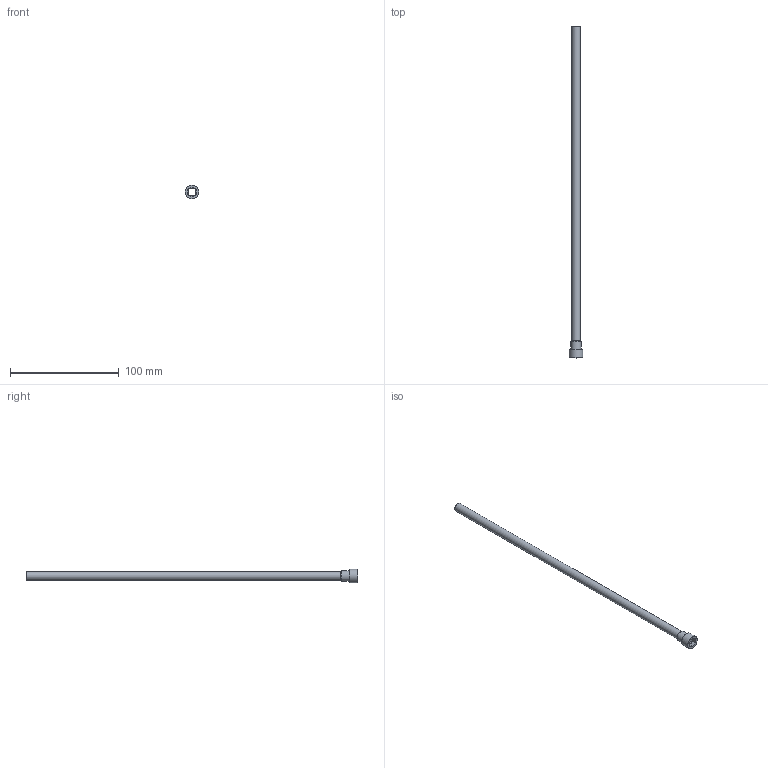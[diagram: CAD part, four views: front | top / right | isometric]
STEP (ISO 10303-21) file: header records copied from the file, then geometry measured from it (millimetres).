
FILE_DESCRIPTION(/* description */ (''),/* implementation_level */ '2;1');
FILE_NAME(/* name */ 'C:/Users/drich/Desktop/R312T-12 v1.step',/* time_stamp */ '2019-12-30T13:17:55-06:00',/* author */ (''),/* organization */ (''),/* preprocessor_version */ 'ST-DEVELOPER v18',/* originating_system */ 'Autodesk Translation Framework v8.12.0.6',/* authorisation */ '');
FILE_SCHEMA (('AUTOMOTIVE_DESIGN { 1 0 10303 214 3 1 1 }'));
Length unit declared in the file: inch
Products named in the file (1): R312T-12
Bounding box: 12.57 x 304.8 x 12.57 mm (x, y, z)
Volume: 2933 mm3; surface area: 14909.9 mm2
Topology: 1 solids, 1 shells, 19 faces, 47 edges, 33 vertices
Faces by surface type: plane 11, cylinder 4, torus 3, cone 1
Full cylindrical faces by diameter (mm): 7.315 x1, 7.925 x1, 9.434 x1, 12.573 x1
Entity records: 624 total; most frequent: DIRECTION 111, CARTESIAN_POINT 100, ORIENTED_EDGE 94, EDGE_CURVE 47, AXIS2_PLACEMENT_3D 44, VERTEX_POINT 33, EDGE_LOOP 24, CIRCLE 24
